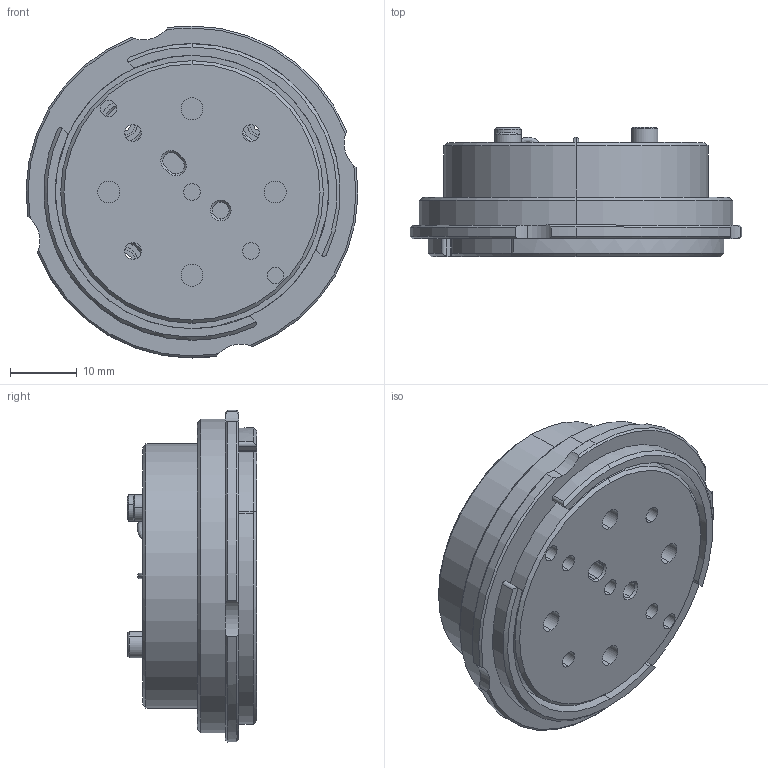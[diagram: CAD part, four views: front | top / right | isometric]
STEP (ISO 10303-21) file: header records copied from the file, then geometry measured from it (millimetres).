
FILE_DESCRIPTION (( 'STEP AP203' ), '1' );
FILE_NAME ('CSC1-3PM.STEP', '2024-03-28T03:19:37', ( '' ), ( '' ), 'SwSTEP 2.0', 'SolidWorks 2021', '' );
FILE_SCHEMA (( 'CONFIG_CONTROL_DESIGN' ));
Length unit declared in the file: millimetre
Products named in the file (1): CSC1-3PM
Bounding box: 49.79 x 19.4 x 49.8 mm (x, y, z)
Surface area: 10527.6 mm2 (no closed solid volume)
Topology: 0 solids, 14 shells, 242 faces, 1030 edges, 796 vertices
Faces by surface type: plane 96, cylinder 85, cone 44, bspline 17
Entity records: 13695 total; most frequent: CARTESIAN_POINT 5433, DIRECTION 1602, ORIENTED_EDGE 1519, EDGE_CURVE 1030, VERTEX_POINT 796, VECTOR 644, LINE 644, AXIS2_PLACEMENT_3D 479
